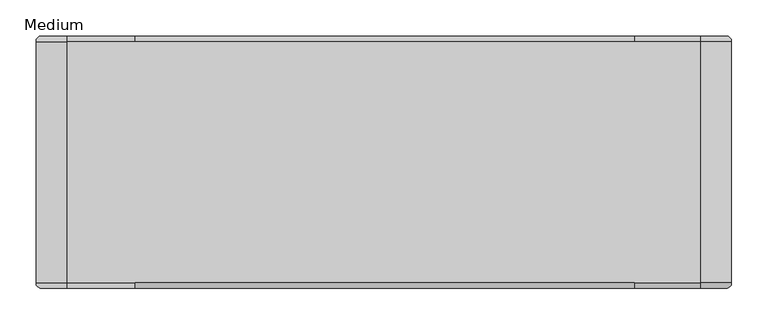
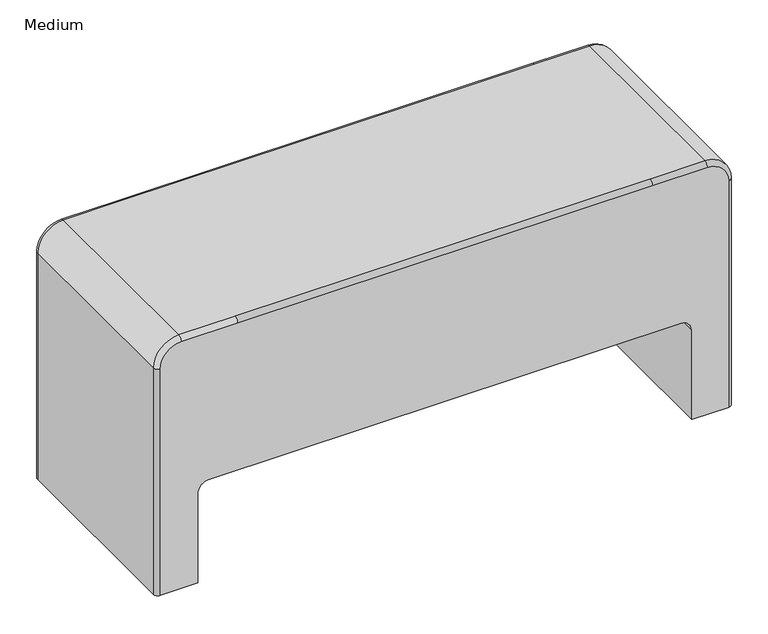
"""IFC4 building model written with IfcOpenShell, lengths in millimetres: furniture geometry, Steelcase Coalesse - Davos - Seating - Bench : Medium."""

from ifc_helpers import new_model, si_unit, point, frame, frame_2d, origin, origin_with_axes, place, context, project, spatial, polyline, circle_curve, ellipse_curve, trimmed, segment, composite_curve, outline, extrude, source, transform, mapped, element, save
from ifc_brep_helpers import plane_surface, cylinder_surface, revolved_surface, advanced_brep


def medium_84b7d5f4(model_context):
    return source(origin(), model_context, "Body", "SolidModel", [
        extrude(outline(composite_curve([segment(trimmed(circle_curve(frame_2d((-619.0274767, 196.051701)), 5.08), [point((-619.0274767, 201.131701))], [point((-613.9474767, 196.051701))], False, "CARTESIAN"), True, "CONTINUOUS"), segment(polyline([(-613.9474767, 196.051701), (-613.9474767, 155.411701)]), True, "CONTINUOUS"), segment(trimmed(circle_curve(frame_2d((-619.0274767, 155.411701)), 5.08), [point((-613.9474767, 155.411701))], [point((-619.0274767, 150.331701))], False, "CARTESIAN"), True, "CONTINUOUS"), segment(polyline([(-619.0274767, 150.331701), (-634.2621476, 150.331701)]), True, "CONTINUOUS"), segment(trimmed(circle_curve(frame_2d((-634.2621476, 155.411701)), 5.08), [point((-634.2621476, 150.331701))], [point((-639.3421476, 155.411701))], False, "CARTESIAN"), True, "CONTINUOUS"), segment(polyline([(-639.3421476, 155.411701), (-639.3421476, 196.051701)]), True, "CONTINUOUS"), segment(trimmed(circle_curve(frame_2d((-634.2621476, 196.051701)), 5.08), [point((-639.3421476, 196.051701))], [point((-634.2621476, 201.131701))], False, "CARTESIAN"), True, "CONTINUOUS"), segment(polyline([(-634.2621476, 201.131701), (-619.0274767, 201.131701)]), True, "CONTINUOUS")], self_intersect=False)), origin_with_axes(), (0.0, 0.0, 1.0), 3.4040124),
        extrude(outline(composite_curve([segment(trimmed(circle_curve(frame_2d((-619.0274767, -81.4021908)), 5.08), [point((-619.0274767, -76.3221908))], [point((-613.9474767, -81.4021908))], False, "CARTESIAN"), True, "CONTINUOUS"), segment(polyline([(-613.9474767, -81.4021908), (-613.9474767, -122.0421908)]), True, "CONTINUOUS"), segment(trimmed(circle_curve(frame_2d((-619.0274767, -122.0421908)), 5.08), [point((-613.9474767, -122.0421908))], [point((-619.0274767, -127.1221908))], False, "CARTESIAN"), True, "CONTINUOUS"), segment(polyline([(-619.0274767, -127.1221908), (-634.2621476, -127.1221908)]), True, "CONTINUOUS"), segment(trimmed(circle_curve(frame_2d((-634.2621476, -122.0421908)), 5.08), [point((-634.2621476, -127.1221908))], [point((-639.3421476, -122.0421908))], False, "CARTESIAN"), True, "CONTINUOUS"), segment(polyline([(-639.3421476, -122.0421908), (-639.3421476, -81.4021908)]), True, "CONTINUOUS"), segment(trimmed(circle_curve(frame_2d((-634.2621476, -81.4021908)), 5.08), [point((-639.3421476, -81.4021908))], [point((-634.2621476, -76.3221908))], False, "CARTESIAN"), True, "CONTINUOUS"), segment(polyline([(-634.2621476, -76.3221908), (-619.0274767, -76.3221908)]), True, "CONTINUOUS")], self_intersect=False)), origin_with_axes(), (0.0, 0.0, 1.0), 3.4040124),
        extrude(outline(composite_curve([segment(trimmed(circle_curve(frame_2d((272.7236579, 196.051701)), 5.08), [point((272.7236579, 201.131701))], [point((277.8036579, 196.051701))], False, "CARTESIAN"), True, "CONTINUOUS"), segment(polyline([(277.8036579, 196.051701), (277.8036579, 155.411701)]), True, "CONTINUOUS"), segment(trimmed(circle_curve(frame_2d((272.7236579, 155.411701)), 5.08), [point((277.8036579, 155.411701))], [point((272.7236579, 150.331701))], False, "CARTESIAN"), True, "CONTINUOUS"), segment(polyline([(272.7236579, 150.331701), (257.4889871, 150.331701)]), True, "CONTINUOUS"), segment(trimmed(circle_curve(frame_2d((257.4889871, 155.411701)), 5.08), [point((257.4889871, 150.331701))], [point((252.4089871, 155.411701))], False, "CARTESIAN"), True, "CONTINUOUS"), segment(polyline([(252.4089871, 155.411701), (252.4089871, 196.051701)]), True, "CONTINUOUS"), segment(trimmed(circle_curve(frame_2d((257.4889871, 196.051701)), 5.08), [point((252.4089871, 196.051701))], [point((257.4889871, 201.131701))], False, "CARTESIAN"), True, "CONTINUOUS"), segment(polyline([(257.4889871, 201.131701), (272.7236579, 201.131701)]), True, "CONTINUOUS")], self_intersect=False)), origin_with_axes(), (0.0, 0.0, 1.0), 3.4040124),
        extrude(outline(composite_curve([segment(trimmed(circle_curve(frame_2d((272.7236579, -81.4021908)), 5.08), [point((272.7236579, -76.3221908))], [point((277.8036579, -81.4021908))], False, "CARTESIAN"), True, "CONTINUOUS"), segment(polyline([(277.8036579, -81.4021908), (277.8036579, -122.0421908)]), True, "CONTINUOUS"), segment(trimmed(circle_curve(frame_2d((272.7236579, -122.0421908)), 5.08), [point((277.8036579, -122.0421908))], [point((272.7236579, -127.1221908))], False, "CARTESIAN"), True, "CONTINUOUS"), segment(polyline([(272.7236579, -127.1221908), (257.4889871, -127.1221908)]), True, "CONTINUOUS"), segment(trimmed(circle_curve(frame_2d((257.4889871, -122.0421908)), 5.08), [point((257.4889871, -127.1221908))], [point((252.4089871, -122.0421908))], False, "CARTESIAN"), True, "CONTINUOUS"), segment(polyline([(252.4089871, -122.0421908), (252.4089871, -81.4021908)]), True, "CONTINUOUS"), segment(trimmed(circle_curve(frame_2d((257.4889871, -81.4021908)), 5.08), [point((252.4089871, -81.4021908))], [point((257.4889871, -76.3221908))], False, "CARTESIAN"), True, "CONTINUOUS"), segment(polyline([(257.4889871, -76.3221908), (272.7236579, -76.3221908)]), True, "CONTINUOUS")], self_intersect=False)), origin_with_axes(), (0.0, 0.0, 1.0), 3.4040124),
        advanced_brep(
        [(-574.5619104, 211.4525251, 180.1955599), (-593.6119104, 211.4525251, 161.1455599), (-593.6119104, 211.4525251, 3.4040124), (-655.9944896, 211.4525251, 3.4040124), (-655.9944896, 211.4525251, 404.0231514), (-620.4343177, 211.4525251, 439.5833234), (-526.2304682, 211.4525251, 439.5833234), (166.7696242, 211.4525251, 439.5833234), (258.102078, 211.4525251, 439.5833234), (293.66225, 211.4525251, 404.0231514), (293.66225, 211.4525251, 3.4040124), (232.0734208, 211.4525251, 3.4040124), (232.0734208, 211.4525251, 161.1455599), (213.0234208, 211.4525251, 180.1955599), (213.0234208, -138.4442299, 180.1955599), (232.0734208, -138.4442299, 161.1455599), (232.0734208, -138.4442299, 3.4040124), (293.66225, -138.4442299, 3.4040124), (293.66225, -138.4442299, 404.0231514), (258.102078, -138.4442299, 439.5833234), (166.7696242, -138.4442299, 439.5833234), (-526.2304682, -138.4442299, 439.5833234), (-620.4343177, -138.4442299, 439.5833234), (-655.9944896, -138.4442299, 404.0231514), (-655.9944896, -138.4442299, 3.4040124), (-593.6119104, -138.4442299, 3.4040124), (-593.6119104, -138.4442299, 161.1455599), (-574.5619104, -138.4442299, 180.1955599), (166.7696242, -130.8242299, 447.2033234), (-526.2304682, -130.8242299, 447.2033234), (258.102078, -130.8242299, 447.2033234), (258.102078, 203.8325251, 447.2033234), (166.7696242, 203.8325251, 447.2033234), (-526.2304682, 203.8325251, 447.2033234), (-620.4343177, 203.8325251, 447.2033234), (-620.4343177, -130.8242299, 447.2033234), (301.28225, -130.8242299, 404.0231514), (301.28225, 203.8325251, 404.0231514), (301.28225, 203.8325251, 3.4040124), (301.28225, -130.8242299, 3.4040124), (-663.6144896, 203.8325251, 404.0231514), (-663.6144896, -130.8242299, 404.0231514), (-663.6144896, -130.8242299, 3.4040124), (-663.6144896, 203.8325251, 3.4040124)],
        [
            (0, 1, circle_curve(frame((-574.5619104, 211.4525251, 161.1455599), z_axis=(0.0, -1.0, 0.0), x_axis=(1.0, 0.0, 0.0)), 19.05)),
            (1, 2),
            (2, 3),
            (3, 4),
            (4, 5, circle_curve(frame((-620.4343177, 211.4525251, 404.0231514), z_axis=(0.0, 1.0, 0.0), x_axis=(0.0, 0.0, 1.0)), 35.560172)),
            (5, 6),
            (6, 7),
            (7, 8),
            (8, 9, circle_curve(frame((258.102078, 211.4525251, 404.0231514), z_axis=(0.0, 1.0, 0.0), x_axis=(0.0, 0.0, 1.0)), 35.560172)),
            (9, 10),
            (10, 11),
            (11, 12),
            (12, 13, circle_curve(frame((213.0234208, 211.4525251, 161.1455599), z_axis=(0.0, -1.0, 0.0), x_axis=(1.0, 0.0, 0.0)), 19.05)),
            (13, 0),
            (14, 15, circle_curve(frame((213.0234208, -138.4442299, 161.1455599), z_axis=(0.0, 1.0, 0.0), x_axis=(1.0, 0.0, 0.0)), 19.05)),
            (15, 16),
            (16, 17),
            (17, 18),
            (18, 19, circle_curve(frame((258.102078, -138.4442299, 404.0231514), z_axis=(0.0, -1.0, 0.0), x_axis=(0.0, 0.0, 1.0)), 35.560172)),
            (19, 20),
            (20, 21),
            (21, 22),
            (22, 23, circle_curve(frame((-620.4343177, -138.4442299, 404.0231514), z_axis=(0.0, -1.0, 0.0), x_axis=(0.0, 0.0, 1.0)), 35.560172)),
            (23, 24),
            (24, 25),
            (25, 26),
            (26, 27, circle_curve(frame((-574.5619104, -138.4442299, 161.1455599), z_axis=(0.0, 1.0, 0.0), x_axis=(1.0, 0.0, 0.0)), 19.05)),
            (27, 14),
            (13, 14),
            (27, 0),
            (20, 28, circle_curve(frame((166.7696242, -130.8242299, 439.5833234), z_axis=(-1.0, 0.0, 0.0), x_axis=(0.0, 0.0, 1.0)), 7.62)),
            (28, 29),
            (29, 21, circle_curve(frame((-526.2304682, -130.8242299, 439.5833234), z_axis=(1.0, 0.0, 0.0), x_axis=(0.0, 0.0, 1.0)), 7.62)),
            (28, 30),
            (30, 31),
            (31, 32),
            (32, 33),
            (33, 34),
            (34, 35),
            (35, 29),
            (32, 7, circle_curve(frame((166.7696242, 203.8325251, 439.5833234), z_axis=(-1.0, 0.0, 0.0), x_axis=(0.0, 0.0, 1.0)), 7.62)),
            (6, 33, circle_curve(frame((-526.2304682, 203.8325251, 439.5833234), z_axis=(1.0, 0.0, 0.0), x_axis=(0.0, 0.0, 1.0)), 7.62)),
            (19, 30, circle_curve(frame((258.102078, -130.8242299, 439.5833234), z_axis=(-1.0, 0.0, 0.0), x_axis=(0.0, 0.0, -1.0)), 7.62)),
            (31, 8, circle_curve(frame((258.102078, 203.8325251, 439.5833234), z_axis=(-1.0, 0.0, 0.0), x_axis=(0.0, 0.0, -1.0)), 7.62)),
            (18, 36, circle_curve(frame((293.66225, -130.8242299, 404.0231514), z_axis=(0.0, 0.0, 1.0), x_axis=(-1.0, 0.0, 0.0)), 7.62)),
            (36, 30, circle_curve(frame((258.102078, -130.8242299, 404.0231514), z_axis=(0.0, -1.0, 0.0), x_axis=(0.0, 0.0, 1.0)), 43.180172)),
            (36, 37),
            (37, 31, circle_curve(frame((258.102078, 203.8325251, 404.0231514), z_axis=(0.0, -1.0, 0.0), x_axis=(0.0, 0.0, 1.0)), 43.180172)),
            (37, 9, circle_curve(frame((293.66225, 203.8325251, 404.0231514), z_axis=(0.0, 0.0, 1.0), x_axis=(-1.0, 0.0, 0.0)), 7.62)),
            (16, 11),
            (10, 38, circle_curve(frame((293.66225, 203.8325251, 3.4040124), z_axis=(0.0, 0.0, -1.0), x_axis=(-1.0, 0.0, 0.0)), 7.62)),
            (38, 39),
            (39, 17, circle_curve(frame((293.66225, -130.8242299, 3.4040124), z_axis=(0.0, 0.0, -1.0), x_axis=(-1.0, 0.0, 0.0)), 7.62)),
            (39, 36),
            (38, 37),
            (5, 34, circle_curve(frame((-620.4343177, 203.8325251, 439.5833234), z_axis=(1.0, 0.0, 0.0), x_axis=(0.0, 0.0, 1.0)), 7.62)),
            (35, 22, circle_curve(frame((-620.4343177, -130.8242299, 439.5833234), z_axis=(1.0, 0.0, 0.0), x_axis=(0.0, 0.0, 1.0)), 7.62)),
            (4, 40, circle_curve(frame((-655.9944896, 203.8325251, 404.0231514), z_axis=(0.0, 0.0, 1.0), x_axis=(-1.0, 0.0, 0.0)), 7.62)),
            (40, 34, circle_curve(frame((-620.4343177, 203.8325251, 404.0231514), z_axis=(0.0, 1.0, 0.0), x_axis=(0.0, 0.0, 1.0)), 43.180172)),
            (40, 41),
            (41, 35, circle_curve(frame((-620.4343177, -130.8242299, 404.0231514), z_axis=(0.0, 1.0, 0.0), x_axis=(0.0, 0.0, 1.0)), 43.180172)),
            (41, 23, circle_curve(frame((-655.9944896, -130.8242299, 404.0231514), z_axis=(0.0, 0.0, 1.0), x_axis=(-1.0, 0.0, 0.0)), 7.62)),
            (2, 25),
            (24, 42, circle_curve(frame((-655.9944896, -130.8242299, 3.4040124), z_axis=(0.0, 0.0, -1.0), x_axis=(-1.0, 0.0, 0.0)), 7.62)),
            (42, 43),
            (43, 3, circle_curve(frame((-655.9944896, 203.8325251, 3.4040124), z_axis=(0.0, 0.0, -1.0), x_axis=(-1.0, 0.0, 0.0)), 7.62)),
            (43, 40),
            (42, 41),
            (26, 1),
            (15, 12),
        ],
        [
            plane_surface(frame((166.7696242, 211.4525251, 437.6781514), z_axis=(0.0, 1.0, 0.0), x_axis=(0.0, 0.0, -1.0))),
            plane_surface(frame((166.7696242, -138.4442299, 437.6781514), z_axis=(0.0, -1.0, 0.0), x_axis=(0.0, 0.0, 1.0))),
            plane_surface(frame((166.7696242, 211.4525251, 180.1955599), z_axis=(0.0, 0.0, -1.0), x_axis=(0.0, -1.0, 0.0))),
            cylinder_surface(frame((166.7696242, -130.8242299, 439.5833234), z_axis=(-1.0, 0.0, 0.0), x_axis=(0.0, 0.0, 1.0)), 7.62),
            plane_surface(frame((-526.2304682, -130.8242299, 447.2033234), z_axis=(0.0, 0.0, 1.0), x_axis=(1.0, 0.0, 0.0))),
            cylinder_surface(frame((166.7696242, 203.8325251, 439.5833234), z_axis=(-1.0, 0.0, 0.0), x_axis=(0.0, 0.0, 1.0)), 7.62),
            cylinder_surface(frame((166.7696242, -130.8242299, 439.5833234), z_axis=(-1.0, 0.0, 0.0), x_axis=(0.0, 0.0, -1.0)), 7.62),
            cylinder_surface(frame((166.7696242, 203.8325251, 439.5833234), z_axis=(-1.0, 0.0, 0.0), x_axis=(0.0, 0.0, -1.0)), 7.62),
            revolved_surface(trimmed(ellipse_curve(frame((258.102078, -130.8242299, 439.5833234), z_axis=(-1.0, 0.0, 0.0), x_axis=(0.0, 0.0, -1.0)), 7.62, 7.62), [point((258.102078, -138.4442299, 439.5833234))], [point((258.102078, -130.8242299, 447.2033234))], True, "CARTESIAN"), (258.102078, 228.8781826, 404.0231514), (0.0, 1.0, 0.0)),
            cylinder_surface(frame((258.102078, 228.8781826, 404.0231514), z_axis=(0.0, 1.0, 0.0), x_axis=(0.0, 0.0, 1.0)), 43.180172),
            revolved_surface(trimmed(ellipse_curve(frame((258.102078, 203.8325251, 439.5833234), z_axis=(-1.0, 0.0, 0.0), x_axis=(0.0, 0.0, -1.0)), 7.62, 7.62), [point((258.102078, 203.8325251, 447.2033234))], [point((258.102078, 211.4525251, 439.5833234))], True, "CARTESIAN"), (258.102078, 228.8781826, 404.0231514), (0.0, 1.0, 0.0)),
            plane_surface(frame((288.582078, 228.8781826, 3.4040124), z_axis=(0.0, 0.0, -1.0), x_axis=(0.0, 1.0, 0.0))),
            cylinder_surface(frame((293.66225, -130.8242299, 404.0231514), z_axis=(0.0, 0.0, 1.0), x_axis=(-1.0, 0.0, 0.0)), 7.62),
            plane_surface(frame((301.28225, -130.8242299, 404.0231514), z_axis=(1.0, 0.0, 0.0), x_axis=(0.0, 0.0, -1.0))),
            cylinder_surface(frame((293.66225, 203.8325251, 404.0231514), z_axis=(0.0, 0.0, 1.0), x_axis=(-1.0, 0.0, 0.0)), 7.62),
            cylinder_surface(frame((-526.2304682, 203.8325251, 439.5833234), z_axis=(1.0, 0.0, 0.0), x_axis=(0.0, 0.0, 1.0)), 7.62),
            cylinder_surface(frame((-526.2304682, -130.8242299, 439.5833234), z_axis=(1.0, 0.0, 0.0), x_axis=(0.0, 0.0, 1.0)), 7.62),
            revolved_surface(trimmed(ellipse_curve(frame((-620.4343177, 203.8325251, 439.5833234), z_axis=(1.0, 0.0, 0.0), x_axis=(0.0, 0.0, 1.0)), 7.62, 7.62), [point((-620.4343177, 211.4525251, 439.5833234))], [point((-620.4343177, 203.8325251, 447.2033234))], True, "CARTESIAN"), (-620.4343177, 228.8781826, 404.0231514), (0.0, -1.0, 0.0)),
            cylinder_surface(frame((-620.4343177, 228.8781826, 404.0231514), z_axis=(0.0, -1.0, 0.0), x_axis=(0.0, 0.0, 1.0)), 43.180172),
            revolved_surface(trimmed(ellipse_curve(frame((-620.4343177, -130.8242299, 439.5833234), z_axis=(1.0, 0.0, 0.0), x_axis=(0.0, 0.0, 1.0)), 7.62, 7.62), [point((-620.4343177, -130.8242299, 447.2033234))], [point((-620.4343177, -138.4442299, 439.5833234))], True, "CARTESIAN"), (-620.4343177, 228.8781826, 404.0231514), (0.0, -1.0, 0.0)),
            plane_surface(frame((-650.9143177, 228.8781826, 3.4040124), z_axis=(0.0, 0.0, -1.0), x_axis=(0.0, 1.0, 0.0))),
            cylinder_surface(frame((-655.9944896, 203.8325251, 404.0231514), z_axis=(0.0, 0.0, 1.0), x_axis=(-1.0, 0.0, 0.0)), 7.62),
            plane_surface(frame((-663.6144896, 203.8325251, 404.0231514), z_axis=(-1.0, 0.0, 0.0), x_axis=(0.0, 0.0, -1.0))),
            cylinder_surface(frame((-655.9944896, -130.8242299, 404.0231514), z_axis=(0.0, 0.0, 1.0), x_axis=(-1.0, 0.0, 0.0)), 7.62),
            revolved_surface(polyline([(-555.5119104, -138.4442299, 161.1455599), (-555.5119104, 211.45252509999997, 161.1455599)]), (-574.5619104, -138.4442299, 161.1455599), (0.0, -1.0, 0.0)),
            plane_surface(frame((-593.6119104, 211.4525251, 161.1455599), z_axis=(1.0, 0.0, 0.0), x_axis=(0.0, -1.0, 0.0))),
            plane_surface(frame((232.0734208, 211.4525251, 3.4040124), z_axis=(-1.0, 0.0, 0.0), x_axis=(0.0, -1.0, 0.0))),
            revolved_surface(polyline([(232.0734208, -138.44422989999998, 161.1455599), (232.0734208, 211.4525251, 161.1455599)]), (213.0234208, 216.2403236, 161.1455599), (0.0, -1.0, 0.0)),
        ],
        [
            (0, [[1, 2, 3, 4, 5, 6, 7, 8, 9, 10, 11, 12, 13, 14]]),
            (1, [[15, 16, 17, 18, 19, 20, 21, 22, 23, 24, 25, 26, 27, 28]]),
            (2, [[-14, 29, -28, 30]]),
            (3, [[-21, 31, 32, 33]]),
            (4, [[-32, 34, 35, 36, 37, 38, 39, 40]]),
            (5, [[-37, 41, -7, 42]]),
            (6, [[-20, 43, -34, -31]]),
            (7, [[-36, 44, -8, -41]]),
            (8, [[-19, 45, 46, -43]]),
            (9, [[-35, -46, 47, 48]]),
            (10, [[-44, -48, 49, -9]]),
            (11, [[-17, 50, -11, 51, 52, 53]]),
            (12, [[-18, -53, 54, -45]]),
            (13, [[-47, -54, -52, 55]]),
            (14, [[-10, -49, -55, -51]]),
            (15, [[-6, 56, -38, -42]]),
            (16, [[-40, 57, -22, -33]]),
            (17, [[-5, 58, 59, -56]]),
            (18, [[-39, -59, 60, 61]]),
            (19, [[-57, -61, 62, -23]]),
            (20, [[-3, 63, -25, 64, 65, 66]]),
            (21, [[-4, -66, 67, -58]]),
            (22, [[-60, -67, -65, 68]]),
            (23, [[-24, -62, -68, -64]]),
            (24, [[-1, -30, -27, 69]]),
            (25, [[-2, -69, -26, -63]]),
            (26, [[-12, -50, -16, 70]]),
            (27, [[-13, -70, -15, -29]]),
        ],
    ),
    ])


if __name__ == "__main__":
    model = new_model("IFC4")
    model_context = context("Model", 3, world=origin())
    ifc_project = project(units=[si_unit("LENGTHUNIT", "METRE", prefix="MILLI")], contexts=[model_context])
    site = spatial("IfcSite", under=ifc_project)
    building = spatial("IfcBuilding", under=site)
    placement = place(None, origin())
    medium_shape = medium_84b7d5f4(model_context)
    element("IfcFurniture", 1, ObjectType="Steelcase Coalesse - Davos - Seating - Bench : Medium", at=placement, inside=building, context=model_context, shape_type="MappedRepresentation", body=[
        mapped(medium_shape, transform((0.0, 0.0, 0.0), x_axis=(1.0, 0.0, 0.0), y_axis=(0.0, 1.0, 0.0), z_axis=(0.0, 0.0, 1.0))),
    ])
    save(model, "model.ifc")
